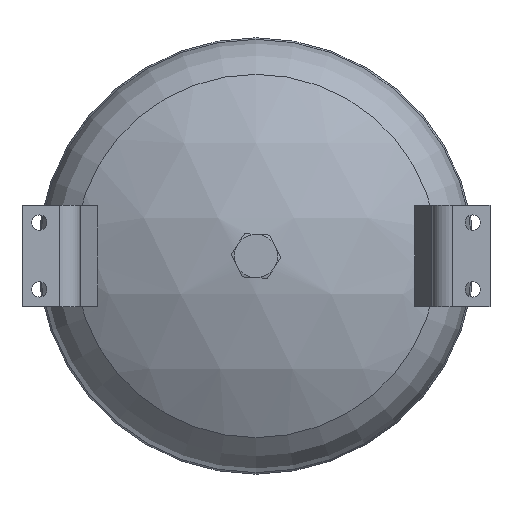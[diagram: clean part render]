
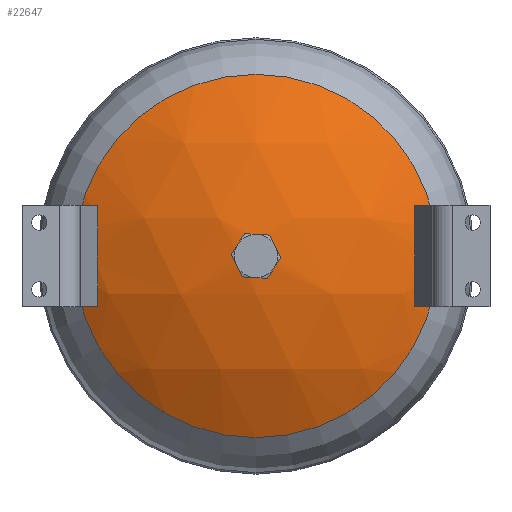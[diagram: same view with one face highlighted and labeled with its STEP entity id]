
A CAD part, front view. The second image highlights one B-rep face of the part: STEP entity #22647.
In plain terms, the highlighted spherical face has radius 244 mm.
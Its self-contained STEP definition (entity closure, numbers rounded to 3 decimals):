
#56=SPHERICAL_SURFACE('',#24265,244.);
#843=CIRCLE('',#24257,13.218);
#848=CIRCLE('',#24266,125.773);
#849=CIRCLE('',#24267,243.161);
#850=CIRCLE('',#24268,29.537);
#851=CIRCLE('',#24269,242.363);
#852=CIRCLE('',#24270,29.537);
#853=CIRCLE('',#24271,243.161);
#854=CIRCLE('',#24272,29.537);
#855=CIRCLE('',#24273,242.363);
#856=CIRCLE('',#24274,29.537);
#5382=FACE_BOUND('',#7919,.T.);
#5383=FACE_BOUND('',#7920,.T.);
#5384=FACE_BOUND('',#7921,.T.);
#6557=FACE_OUTER_BOUND('',#7918,.T.);
#7918=EDGE_LOOP('',(#20813));
#7919=EDGE_LOOP('',(#20814));
#7920=EDGE_LOOP('',(#20815,#20816,#20817,#20818));
#7921=EDGE_LOOP('',(#20819,#20820,#20821,#20822));
#11025=VERTEX_POINT('',#48017);
#11030=VERTEX_POINT('',#48031);
#11031=VERTEX_POINT('',#48033);
#11032=VERTEX_POINT('',#48034);
#11033=VERTEX_POINT('',#48036);
#11034=VERTEX_POINT('',#48038);
#11035=VERTEX_POINT('',#48041);
#11036=VERTEX_POINT('',#48042);
#11037=VERTEX_POINT('',#48044);
#11038=VERTEX_POINT('',#48046);
#14323=EDGE_CURVE('',#11025,#11025,#843,.T.);
#14328=EDGE_CURVE('',#11030,#11030,#848,.T.);
#14329=EDGE_CURVE('',#11031,#11032,#849,.T.);
#14330=EDGE_CURVE('',#11032,#11033,#850,.T.);
#14331=EDGE_CURVE('',#11033,#11034,#851,.T.);
#14332=EDGE_CURVE('',#11034,#11031,#852,.T.);
#14333=EDGE_CURVE('',#11035,#11036,#853,.T.);
#14334=EDGE_CURVE('',#11036,#11037,#854,.T.);
#14335=EDGE_CURVE('',#11037,#11038,#855,.T.);
#14336=EDGE_CURVE('',#11038,#11035,#856,.T.);
#20813=ORIENTED_EDGE('',*,*,#14328,.T.);
#20814=ORIENTED_EDGE('',*,*,#14323,.T.);
#20815=ORIENTED_EDGE('',*,*,#14329,.T.);
#20816=ORIENTED_EDGE('',*,*,#14330,.T.);
#20817=ORIENTED_EDGE('',*,*,#14331,.T.);
#20818=ORIENTED_EDGE('',*,*,#14332,.T.);
#20819=ORIENTED_EDGE('',*,*,#14333,.T.);
#20820=ORIENTED_EDGE('',*,*,#14334,.T.);
#20821=ORIENTED_EDGE('',*,*,#14335,.T.);
#20822=ORIENTED_EDGE('',*,*,#14336,.T.);
#22647=ADVANCED_FACE('',(#6557,#5382,#5383,#5384),#56,.T.);
#24257=AXIS2_PLACEMENT_3D('',#48018,#28914,#28915);
#24265=AXIS2_PLACEMENT_3D('',#48030,#28930,#28931);
#24266=AXIS2_PLACEMENT_3D('',#48032,#28932,#28933);
#24267=AXIS2_PLACEMENT_3D('',#48035,#28934,#28935);
#24268=AXIS2_PLACEMENT_3D('',#48037,#28936,#28937);
#24269=AXIS2_PLACEMENT_3D('',#48039,#28938,#28939);
#24270=AXIS2_PLACEMENT_3D('',#48040,#28940,#28941);
#24271=AXIS2_PLACEMENT_3D('',#48043,#28942,#28943);
#24272=AXIS2_PLACEMENT_3D('',#48045,#28944,#28945);
#24273=AXIS2_PLACEMENT_3D('',#48047,#28946,#28947);
#24274=AXIS2_PLACEMENT_3D('',#48048,#28948,#28949);
#28914=DIRECTION('center_axis',(0.,1.,0.));
#28915=DIRECTION('ref_axis',(0.,0.,1.));
#28930=DIRECTION('center_axis',(0.,0.,-1.));
#28931=DIRECTION('ref_axis',(1.,0.,0.));
#28932=DIRECTION('center_axis',(0.,-1.,0.));
#28933=DIRECTION('ref_axis',(-1.,0.,0.));
#28934=DIRECTION('center_axis',(0.927,-0.375,0.));
#28935=DIRECTION('ref_axis',(0.,0.,1.));
#28936=DIRECTION('center_axis',(0.375,0.927,0.));
#28937=DIRECTION('ref_axis',(0.,0.,-1.));
#28938=DIRECTION('center_axis',(-0.927,0.375,0.));
#28939=DIRECTION('ref_axis',(0.,0.,-1.));
#28940=DIRECTION('center_axis',(0.375,0.927,0.));
#28941=DIRECTION('ref_axis',(0.,0.,-1.));
#28942=DIRECTION('center_axis',(-0.927,-0.375,0.));
#28943=DIRECTION('ref_axis',(0.,0.,-1.));
#28944=DIRECTION('center_axis',(-0.375,0.927,0.));
#28945=DIRECTION('ref_axis',(0.,0.,-1.));
#28946=DIRECTION('center_axis',(0.927,0.375,0.));
#28947=DIRECTION('ref_axis',(0.,0.,1.));
#28948=DIRECTION('center_axis',(-0.375,0.927,0.));
#28949=DIRECTION('ref_axis',(0.,0.,-1.));
#48017=CARTESIAN_POINT('',(-13.218,-160.542,0.));
#48018=CARTESIAN_POINT('Origin',(0.,-160.542,0.));
#48030=CARTESIAN_POINT('Origin',(0.,83.1,
0.));
#48031=CARTESIAN_POINT('',(-125.773,-125.986,0.));
#48032=CARTESIAN_POINT('Origin',(0.,-125.986,
0.));
#48033=CARTESIAN_POINT('',(-109.474,-133.897,21.537));
#48034=CARTESIAN_POINT('',(-109.474,-133.897,-21.537));
#48035=CARTESIAN_POINT('Origin',(-18.742,90.672,0.));
#48036=CARTESIAN_POINT('',(-116.891,-130.9,-8.741));
#48037=CARTESIAN_POINT('Origin',(-90.732,-141.469,0.));
#48038=CARTESIAN_POINT('',(-116.891,-130.9,8.741));
#48039=CARTESIAN_POINT('Origin',(-26.16,93.669,0.));
#48040=CARTESIAN_POINT('Origin',(-90.732,-141.469,0.));
#48041=CARTESIAN_POINT('',(109.474,-133.897,-21.537));
#48042=CARTESIAN_POINT('',(109.474,-133.897,21.537));
#48043=CARTESIAN_POINT('Origin',(18.742,90.672,0.));
#48044=CARTESIAN_POINT('',(116.891,-130.9,8.741));
#48045=CARTESIAN_POINT('Origin',(90.732,-141.469,0.));
#48046=CARTESIAN_POINT('',(116.891,-130.9,-8.741));
#48047=CARTESIAN_POINT('Origin',(26.16,93.669,0.));
#48048=CARTESIAN_POINT('Origin',(90.732,-141.469,0.));
